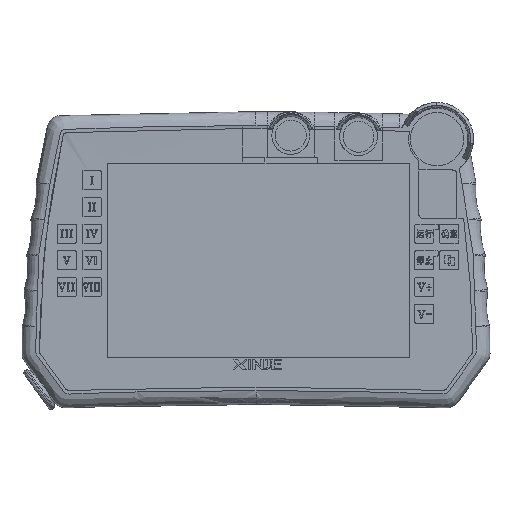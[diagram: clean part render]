
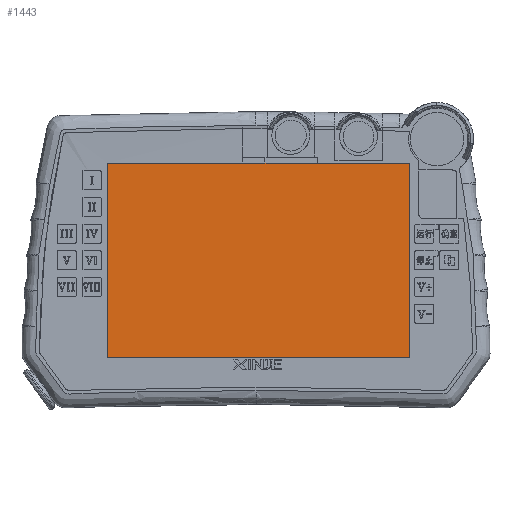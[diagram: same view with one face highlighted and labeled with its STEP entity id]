
A CAD part, front view. The second image highlights one B-rep face of the part: STEP entity #1443.
In plain terms, the highlighted planar face has unit normal (0, -1, 0).
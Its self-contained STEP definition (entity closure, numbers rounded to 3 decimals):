
#1443=ADVANCED_FACE('',(#2029),#10795,.T.);
#2029=FACE_OUTER_BOUND('',#2624,.T.);
#2624=EDGE_LOOP('',(#5303,#5304,#5305,#5306,#5307,#5308,#5309));
#5303=ORIENTED_EDGE('',*,*,#7546,.T.);
#5304=ORIENTED_EDGE('',*,*,#7545,.T.);
#5305=ORIENTED_EDGE('',*,*,#7544,.T.);
#5306=ORIENTED_EDGE('',*,*,#7547,.T.);
#5307=ORIENTED_EDGE('',*,*,#7542,.F.);
#5308=ORIENTED_EDGE('',*,*,#6498,.F.);
#5309=ORIENTED_EDGE('',*,*,#7543,.T.);
#6498=EDGE_CURVE('',#9927,#9925,#8372,.T.);
#7542=EDGE_CURVE('',#9925,#10572,#9141,.T.);
#7543=EDGE_CURVE('',#9927,#10573,#9142,.T.);
#7544=EDGE_CURVE('',#10575,#10574,#9143,.T.);
#7545=EDGE_CURVE('',#10576,#10575,#9144,.T.);
#7546=EDGE_CURVE('',#10573,#10576,#9145,.T.);
#7547=EDGE_CURVE('',#10574,#10572,#9146,.T.);
#8372=B_SPLINE_CURVE_WITH_KNOTS('',1,(#701208,#701209),.UNSPECIFIED.,.F.,
 .F.,(2,2),(78.5,91.688),.UNSPECIFIED.);
#9141=B_SPLINE_CURVE_WITH_KNOTS('',1,(#708973,#708974,#708975),
 .UNSPECIFIED.,.F.,.F.,(2,1,2),(0.,2.812,30.63),
 .UNSPECIFIED.);
#9142=B_SPLINE_CURVE_WITH_KNOTS('',1,(#708976,#708977),.UNSPECIFIED.,.F.,
 .F.,(2,2),(0.,78.5),.UNSPECIFIED.);
#9143=B_SPLINE_CURVE_WITH_KNOTS('',1,(#708978,#708979),.UNSPECIFIED.,.F.,
 .F.,(2,2),(0.,113.),.UNSPECIFIED.);
#9144=B_SPLINE_CURVE_WITH_KNOTS('',1,(#708980,#708981),.UNSPECIFIED.,.F.,
 .F.,(2,2),(0.,175.9),.UNSPECIFIED.);
#9145=B_SPLINE_CURVE_WITH_KNOTS('',1,(#708982,#708983),.UNSPECIFIED.,.F.,
 .F.,(2,2),(0.,113.),.UNSPECIFIED.);
#9146=B_SPLINE_CURVE_WITH_KNOTS('',1,(#708984,#708985),.UNSPECIFIED.,.F.,
 .F.,(2,2),(-175.9,-122.318),.UNSPECIFIED.);
#9925=VERTEX_POINT('',#700460);
#9927=VERTEX_POINT('',#700462);
#10572=VERTEX_POINT('',#701107);
#10573=VERTEX_POINT('',#701108);
#10574=VERTEX_POINT('',#701109);
#10575=VERTEX_POINT('',#701110);
#10576=VERTEX_POINT('',#701111);
#10795=PLANE('',#11163);
#11163=AXIS2_PLACEMENT_3D('',#312144,#11455,$);
#11455=DIRECTION('',(0.,-1.,0.));
#312144=CARTESIAN_POINT('',(-82.899,-12.631,67.129));
#700460=CARTESIAN_POINT('',(8.789,-12.631,67.129));
#700462=CARTESIAN_POINT('',(-4.399,-12.631,67.129));
#701107=CARTESIAN_POINT('',(39.419,-12.631,67.129));
#701108=CARTESIAN_POINT('',(-82.899,-12.631,67.129));
#701109=CARTESIAN_POINT('',(93.001,-12.631,67.129));
#701110=CARTESIAN_POINT('',(93.001,-12.631,-45.871));
#701111=CARTESIAN_POINT('',(-82.899,-12.631,-45.871));
#701208=CARTESIAN_POINT('',(-4.399,-12.631,67.129));
#701209=CARTESIAN_POINT('',(8.789,-12.631,67.129));
#708973=CARTESIAN_POINT('',(8.789,-12.631,67.129));
#708974=CARTESIAN_POINT('',(11.601,-12.631,67.129));
#708975=CARTESIAN_POINT('',(39.419,-12.631,67.129));
#708976=CARTESIAN_POINT('',(-4.399,-12.631,67.129));
#708977=CARTESIAN_POINT('',(-82.899,-12.631,67.129));
#708978=CARTESIAN_POINT('',(93.001,-12.631,-45.871));
#708979=CARTESIAN_POINT('',(93.001,-12.631,67.129));
#708980=CARTESIAN_POINT('',(-82.899,-12.631,-45.871));
#708981=CARTESIAN_POINT('',(93.001,-12.631,-45.871));
#708982=CARTESIAN_POINT('',(-82.899,-12.631,67.129));
#708983=CARTESIAN_POINT('',(-82.899,-12.631,-45.871));
#708984=CARTESIAN_POINT('',(93.001,-12.631,67.129));
#708985=CARTESIAN_POINT('',(39.419,-12.631,67.129));
